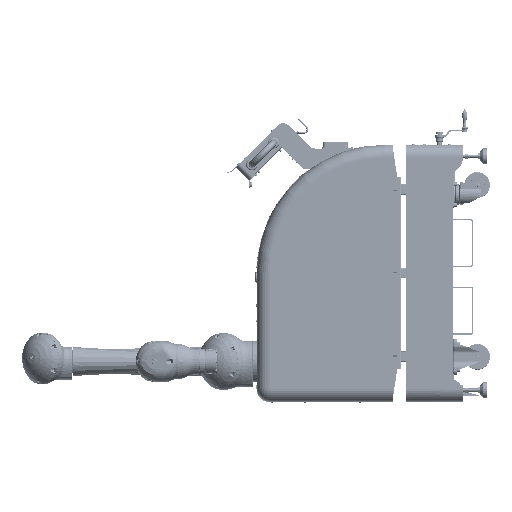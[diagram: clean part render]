
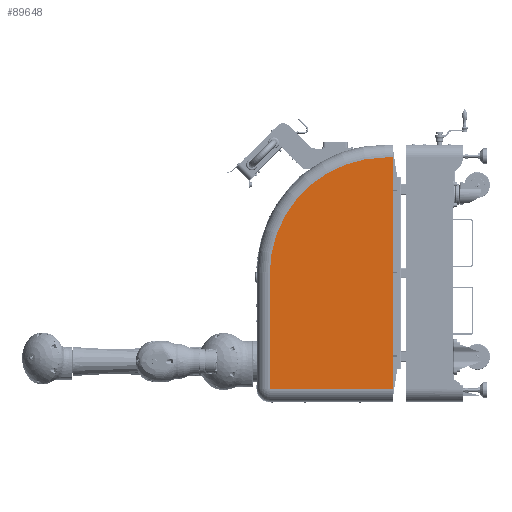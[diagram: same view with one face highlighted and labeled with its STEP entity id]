
A CAD part, left-side view. The second image highlights one B-rep face of the part: STEP entity #89648.
In plain terms, the highlighted planar face has unit normal (-1, 0, 0).
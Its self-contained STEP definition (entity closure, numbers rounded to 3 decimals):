
#4130=DIRECTION('',(0.,-1.,0.));
#4131=VECTOR('',#4130,480.);
#4132=CARTESIAN_POINT('',(-300.,100.8,-106.));
#4133=LINE('',#4132,#4131);
#5215=DIRECTION('',(0.,1.,0.));
#5216=VECTOR('',#5215,30.);
#5217=CARTESIAN_POINT('',(-300.,-379.2,794.));
#5218=LINE('',#5217,#5216);
#5238=DIRECTION('',(0.,0.,-1.));
#5239=VECTOR('',#5238,450.);
#5240=CARTESIAN_POINT('',(-300.,100.8,344.));
#5241=LINE('',#5240,#5239);
#5242=CARTESIAN_POINT('',(-300.,-349.2,344.));
#5243=DIRECTION('',(1.,0.,0.));
#5244=DIRECTION('',(0.,1.,0.));
#5245=AXIS2_PLACEMENT_3D('',#5242,#5243,#5244);
#5247=DIRECTION('',(0.,0.,-1.));
#5248=VECTOR('',#5247,900.);
#5249=CARTESIAN_POINT('',(-300.,-379.2,794.));
#5250=LINE('',#5249,#5248);
#75706=CARTESIAN_POINT('',(-300.,-379.2,-106.));
#75708=VERTEX_POINT('',#75706);
#75709=CARTESIAN_POINT('',(-300.,-379.2,794.));
#75710=VERTEX_POINT('',#75709);
#75793=CARTESIAN_POINT('',(-300.,100.8,-106.));
#75794=VERTEX_POINT('',#75793);
#75805=CARTESIAN_POINT('',(-300.,100.8,344.));
#75806=CARTESIAN_POINT('',(-300.,-349.2,794.));
#75807=VERTEX_POINT('',#75805);
#75808=VERTEX_POINT('',#75806);
#89636=CARTESIAN_POINT('',(-300.,150.8,844.));
#89637=DIRECTION('',(1.,0.,0.));
#89638=DIRECTION('',(0.,0.,1.));
#89639=AXIS2_PLACEMENT_3D('',#89636,#89637,#89638);
#89640=PLANE('',#89639);
#89641=ORIENTED_EDGE('',*,*,#89618,.T.);
#89642=ORIENTED_EDGE('',*,*,#89604,.F.);
#89643=ORIENTED_EDGE('',*,*,#88480,.T.);
#89644=ORIENTED_EDGE('',*,*,#88434,.F.);
#89645=ORIENTED_EDGE('',*,*,#89631,.F.);
#89646=EDGE_LOOP('',(#89641,#89642,#89643,#89644,#89645));
#89647=FACE_OUTER_BOUND('',#89646,.F.);
#89648=ADVANCED_FACE('',(#89647),#89640,.F.);
#5246=CIRCLE('',#5245,450.);
#88434=EDGE_CURVE('',#75794,#75708,#4133,.T.);
#88480=EDGE_CURVE('',#75710,#75708,#5250,.T.);
#89604=EDGE_CURVE('',#75710,#75808,#5218,.T.);
#89618=EDGE_CURVE('',#75807,#75808,#5246,.T.);
#89631=EDGE_CURVE('',#75807,#75794,#5241,.T.);
